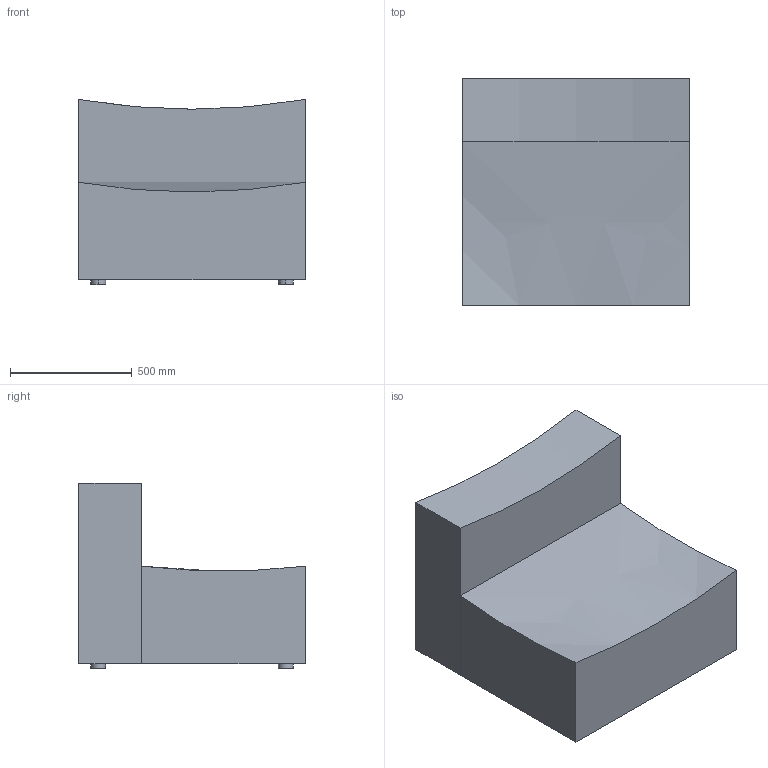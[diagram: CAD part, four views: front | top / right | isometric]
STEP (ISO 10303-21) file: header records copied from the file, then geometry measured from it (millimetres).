
FILE_DESCRIPTION(/* description */ (''),/* implementation_level */ '2;1');
FILE_NAME(/* name */ 'CSO3D5~W',/* time_stamp */ '2020-11-03T16:31:25+01:00',/* author */ (''),/* organization */ (''),/* preprocessor_version */ 'ST-DEVELOPER v16.5',/* originating_system */ '',/* authorisation */ '');
FILE_SCHEMA (('AUTOMOTIVE_DESIGN'));
Length unit declared in the file: millimetre
Products named in the file (1): Document
Bounding box: 930 x 930 x 760 mm (x, y, z)
Volume: 408987052.2 mm3; surface area: 4718310.4 mm2
Topology: 6 solids, 6 shells, 28 faces, 48 edges, 32 vertices
Faces by surface type: plane 18, bspline 10
Entity records: 744 total; most frequent: CARTESIAN_POINT 364, ORIENTED_EDGE 96, EDGE_CURVE 48, VERTEX_POINT 32, ADVANCED_FACE 28, FACE_OUTER_BOUND 28, EDGE_LOOP 28, B_SPLINE_CURVE_WITH_KNOTS 24
